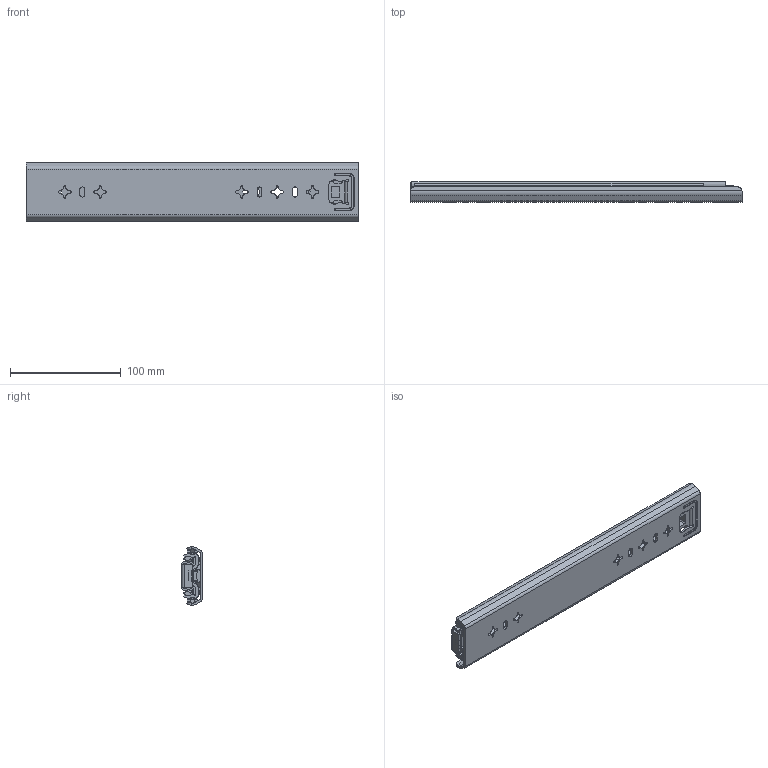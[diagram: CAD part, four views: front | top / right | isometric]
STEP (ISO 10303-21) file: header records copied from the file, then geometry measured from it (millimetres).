
FILE_DESCRIPTION((''),'2;1');
FILE_NAME('1053-02-12_ASM','2022-08-15T',('jishu015'),(''),'PRO/ENGINEER BY PARAMETRIC TECHNOLOGY CORPORATION, 2010280','PRO/ENGINEER BY PARAMETRIC TECHNOLOGY CORPORATION, 2010280','');
FILE_SCHEMA(('CONFIG_CONTROL_DESIGN'));
Length unit declared in the file: millimetre
Products named in the file (15): 1053-02-18WAIKE_; 1053WEIJIAO_; 1053-02-18WAIKE___ASM; 1053ZHUTIAO-175; 53-5-6GANZHU; 1053ZHUTIAO-175MM___ASM; 1053-02-18ZHONGGUI___; 53ZHIDIJIAO_________________; 1053-02-18ZHONGGUI____ASM; 1053XIAOZHUJIA-14GE_____; 1053XIAOZHUJIA-12GE_____ASM; 1053-02-18NEIGUI____; 53BACHA________________; 1053-02-18NEIGUI___ASM; 1053-02-12_ASM
Assembly tree (37 placements, depth 3):
  1053-02-12_ASM
    1053-02-18WAIKE___ASM
      1053-02-18WAIKE_
      1053WEIJIAO_
    1053ZHUTIAO-175MM___ASM  x2
      1053ZHUTIAO-175
      53-5-6GANZHU
    1053-02-18ZHONGGUI____ASM
      1053-02-18ZHONGGUI___
      53ZHIDIJIAO_________________
    1053XIAOZHUJIA-12GE_____ASM
      1053XIAOZHUJIA-14GE_____
      53-5-6GANZHU  x20
    1053-02-18NEIGUI___ASM
      1053-02-18NEIGUI____
      53BACHA________________
Bounding box: 300 x 18.7 x 53 mm (x, y, z)
Volume: 110915.3 mm3; surface area: 127001.5 mm2
Topology: 35 solids, 35 shells, 1129 faces, 3241 edges, 2058 vertices
Faces by surface type: plane 505, cylinder 462, sphere 60, cone 48, bspline 42, torus 12
Entity records: 37616 total; most frequent: CARTESIAN_POINT 9244, ORIENTED_EDGE 6002, DIRECTION 5827, EDGE_CURVE 3001, AXIS2_PLACEMENT_3D 2014, VERTEX_POINT 1956, VECTOR 1799, LINE 1799
